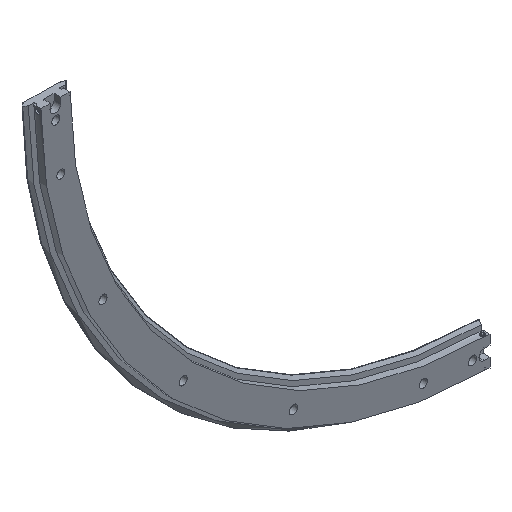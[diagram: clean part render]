
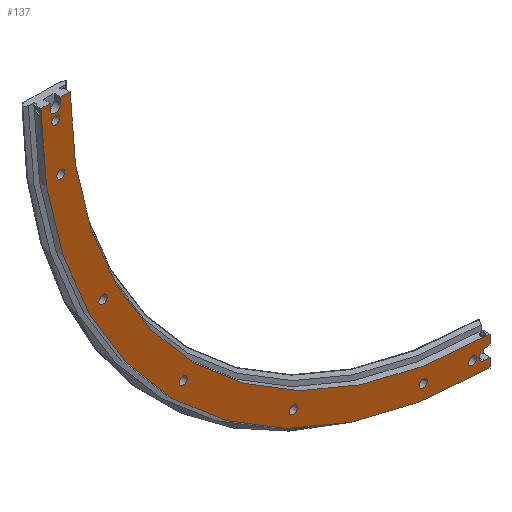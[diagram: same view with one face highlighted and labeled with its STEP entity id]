
A CAD part, isometric view. The second image highlights one B-rep face of the part: STEP entity #137.
In plain terms, the highlighted planar face has unit normal (0, -1, 0).
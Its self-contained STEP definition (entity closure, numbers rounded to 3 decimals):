
#137 = ADVANCED_FACE( '', ( #306, #307, #308, #309, #310, #311, #312, #313 ), #314, .T. );
#306 = FACE_BOUND( '', #519, .T. );
#307 = FACE_BOUND( '', #520, .T. );
#308 = FACE_BOUND( '', #521, .T. );
#309 = FACE_BOUND( '', #522, .T. );
#310 = FACE_BOUND( '', #523, .T. );
#311 = FACE_BOUND( '', #524, .T. );
#312 = FACE_BOUND( '', #525, .T. );
#313 = FACE_OUTER_BOUND( '', #526, .T. );
#314 = PLANE( '', #527 );
#519 = EDGE_LOOP( '', ( #1054 ) );
#520 = EDGE_LOOP( '', ( #1055 ) );
#521 = EDGE_LOOP( '', ( #1056 ) );
#522 = EDGE_LOOP( '', ( #1057 ) );
#523 = EDGE_LOOP( '', ( #1058 ) );
#524 = EDGE_LOOP( '', ( #1059 ) );
#525 = EDGE_LOOP( '', ( #1060 ) );
#526 = EDGE_LOOP( '', ( #1061, #1062, #1063, #1064, #1065, #1066, #1067, #1068, #1069, #1070, #1071, #1072 ) );
#527 = AXIS2_PLACEMENT_3D( '', #1073, #1074, #1075 );
#1054 = ORIENTED_EDGE( '', *, *, #1358, .F. );
#1055 = ORIENTED_EDGE( '', *, *, #1359, .F. );
#1056 = ORIENTED_EDGE( '', *, *, #1360, .F. );
#1057 = ORIENTED_EDGE( '', *, *, #1361, .F. );
#1058 = ORIENTED_EDGE( '', *, *, #1362, .F. );
#1059 = ORIENTED_EDGE( '', *, *, #1256, .F. );
#1060 = ORIENTED_EDGE( '', *, *, #1260, .F. );
#1061 = ORIENTED_EDGE( '', *, *, #1241, .T. );
#1062 = ORIENTED_EDGE( '', *, *, #1246, .T. );
#1063 = ORIENTED_EDGE( '', *, *, #1269, .T. );
#1064 = ORIENTED_EDGE( '', *, *, #1265, .T. );
#1065 = ORIENTED_EDGE( '', *, *, #1196, .T. );
#1066 = ORIENTED_EDGE( '', *, *, #1255, .T. );
#1067 = ORIENTED_EDGE( '', *, *, #1253, .T. );
#1068 = ORIENTED_EDGE( '', *, *, #1251, .T. );
#1069 = ORIENTED_EDGE( '', *, *, #1212, .T. );
#1070 = ORIENTED_EDGE( '', *, *, #1342, .F. );
#1071 = ORIENTED_EDGE( '', *, *, #1270, .T. );
#1072 = ORIENTED_EDGE( '', *, *, #1244, .T. );
#1073 = CARTESIAN_POINT( '', ( -725.25, 0., 0. ) );
#1074 = DIRECTION( '', ( 0., -1., 0. ) );
#1075 = DIRECTION( '', ( 0., 0., -1. ) );
#1196 = EDGE_CURVE( '', #1379, #1377, #1380, .T. );
#1212 = EDGE_CURVE( '', #1411, #1409, #1412, .T. );
#1241 = EDGE_CURVE( '', #1461, #1462, #1463, .T. );
#1244 = EDGE_CURVE( '', #1466, #1461, #1467, .T. );
#1246 = EDGE_CURVE( '', #1462, #1469, #1470, .T. );
#1251 = EDGE_CURVE( '', #1477, #1411, #1478, .T. );
#1253 = EDGE_CURVE( '', #1480, #1477, #1481, .T. );
#1255 = EDGE_CURVE( '', #1377, #1480, #1483, .T. );
#1256 = EDGE_CURVE( '', #1484, #1484, #1485, .T. );
#1260 = EDGE_CURVE( '', #1492, #1492, #1493, .T. );
#1265 = EDGE_CURVE( '', #1502, #1379, #1503, .T. );
#1269 = EDGE_CURVE( '', #1469, #1502, #1509, .T. );
#1270 = EDGE_CURVE( '', #1510, #1466, #1511, .T. );
#1342 = EDGE_CURVE( '', #1510, #1409, #1634, .T. );
#1358 = EDGE_CURVE( '', #1655, #1655, #1656, .T. );
#1359 = EDGE_CURVE( '', #1657, #1657, #1658, .T. );
#1360 = EDGE_CURVE( '', #1659, #1659, #1660, .T. );
#1361 = EDGE_CURVE( '', #1661, #1661, #1662, .T. );
#1362 = EDGE_CURVE( '', #1663, #1663, #1664, .T. );
#1377 = VERTEX_POINT( '', #1690 );
#1379 = VERTEX_POINT( '', #1693 );
#1380 = LINE( '', #1694, #1695 );
#1409 = VERTEX_POINT( '', #1762 );
#1411 = VERTEX_POINT( '', #1765 );
#1412 = LINE( '', #1766, #1767 );
#1461 = VERTEX_POINT( '', #1906 );
#1462 = VERTEX_POINT( '', #1907 );
#1463 = CIRCLE( '', #1908, 9. );
#1466 = VERTEX_POINT( '', #1913 );
#1467 = LINE( '', #1914, #1915 );
#1469 = VERTEX_POINT( '', #1918 );
#1470 = LINE( '', #1919, #1920 );
#1477 = VERTEX_POINT( '', #1930 );
#1478 = LINE( '', #1931, #1932 );
#1480 = VERTEX_POINT( '', #1935 );
#1481 = CIRCLE( '', #1936, 9. );
#1483 = LINE( '', #1939, #1940 );
#1484 = VERTEX_POINT( '', #1941 );
#1485 = CIRCLE( '', #1942, 7. );
#1492 = VERTEX_POINT( '', #1949 );
#1493 = CIRCLE( '', #1950, 7. );
#1502 = VERTEX_POINT( '', #2024 );
#1503 = CIRCLE( '', #2025, 775.75 );
#1509 = LINE( '', #2097, #2098 );
#1510 = VERTEX_POINT( '', #2099 );
#1511 = LINE( '', #2100, #2101 );
#1634 = CIRCLE( '', #2377, 725.25 );
#1655 = VERTEX_POINT( '', #2398 );
#1656 = CIRCLE( '', #2399, 7. );
#1657 = VERTEX_POINT( '', #2400 );
#1658 = CIRCLE( '', #2401, 7. );
#1659 = VERTEX_POINT( '', #2402 );
#1660 = CIRCLE( '', #2403, 7. );
#1661 = VERTEX_POINT( '', #2404 );
#1662 = CIRCLE( '', #2405, 7. );
#1663 = VERTEX_POINT( '', #2406 );
#1664 = CIRCLE( '', #2407, 7. );
#1690 = CARTESIAN_POINT( '', ( -2.5, 0., -759.5 ) );
#1693 = CARTESIAN_POINT( '', ( -2.5, 0., -775.746 ) );
#1694 = CARTESIAN_POINT( '', ( -2.5, 0., -788.87 ) );
#1695 = VECTOR( '', #2432, 1000. );
#1762 = CARTESIAN_POINT( '', ( -2.5, 0., -725.246 ) );
#1765 = CARTESIAN_POINT( '', ( -2.5, 0., -741.5 ) );
#1766 = CARTESIAN_POINT( '', ( -2.5, 0., -788.87 ) );
#1767 = VECTOR( '', #2442, 1000. );
#1906 = CARTESIAN_POINT( '', ( -741.5, 0., -12.5 ) );
#1907 = CARTESIAN_POINT( '', ( -759.5, 0., -12.5 ) );
#1908 = AXIS2_PLACEMENT_3D( '', #2477, #2478, #2479 );
#1913 = CARTESIAN_POINT( '', ( -741.5, 0., -2.5 ) );
#1914 = CARTESIAN_POINT( '', ( -741.5, 0., 0. ) );
#1915 = VECTOR( '', #2482, 1000. );
#1918 = CARTESIAN_POINT( '', ( -759.5, 0., -2.5 ) );
#1919 = CARTESIAN_POINT( '', ( -759.5, 0., -12.5 ) );
#1920 = VECTOR( '', #2484, 1000. );
#1930 = CARTESIAN_POINT( '', ( -12.5, 0., -741.5 ) );
#1931 = CARTESIAN_POINT( '', ( -12.5, 0., -741.5 ) );
#1932 = VECTOR( '', #2491, 1000. );
#1935 = CARTESIAN_POINT( '', ( -12.5, 0., -759.5 ) );
#1936 = AXIS2_PLACEMENT_3D( '', #2493, #2494, #2495 );
#1939 = CARTESIAN_POINT( '', ( 0., 0., -759.5 ) );
#1940 = VECTOR( '', #2497, 1000. );
#1941 = CARTESIAN_POINT( '', ( -741.26, 0., -124.404 ) );
#1942 = AXIS2_PLACEMENT_3D( '', #2498, #2499, #2500 );
#1949 = CARTESIAN_POINT( '', ( -117.404, 0., -748.26 ) );
#1950 = AXIS2_PLACEMENT_3D( '', #2510, #2511, #2512 );
#2024 = CARTESIAN_POINT( '', ( -775.746, 0., -2.5 ) );
#2025 = AXIS2_PLACEMENT_3D( '', #2522, #2523, #2524 );
#2097 = CARTESIAN_POINT( '', ( -2.5, 0., -2.5 ) );
#2098 = VECTOR( '', #2529, 1000. );
#2099 = CARTESIAN_POINT( '', ( -725.246, 0., -2.5 ) );
#2100 = CARTESIAN_POINT( '', ( -2.5, 0., -2.5 ) );
#2101 = VECTOR( '', #2530, 1000. );
#2377 = AXIS2_PLACEMENT_3D( '', #2604, #2605, #2606 );
#2398 = CARTESIAN_POINT( '', ( -749.796, 0., -39.501 ) );
#2399 = AXIS2_PLACEMENT_3D( '', #2652, #2653, #2654 );
#2400 = CARTESIAN_POINT( '', ( -32.501, 0., -756.796 ) );
#2401 = AXIS2_PLACEMENT_3D( '', #2655, #2656, #2657 );
#2402 = CARTESIAN_POINT( '', ( -668.7, 0., -347.72 ) );
#2403 = AXIS2_PLACEMENT_3D( '', #2658, #2659, #2660 );
#2404 = CARTESIAN_POINT( '', ( -530.684, 0., -537.684 ) );
#2405 = AXIS2_PLACEMENT_3D( '', #2661, #2662, #2663 );
#2406 = CARTESIAN_POINT( '', ( -340.72, 0., -675.7 ) );
#2407 = AXIS2_PLACEMENT_3D( '', #2664, #2665, #2666 );
#2432 = DIRECTION( '', ( 0., 0., 1. ) );
#2442 = DIRECTION( '', ( 0., 0., 1. ) );
#2477 = CARTESIAN_POINT( '', ( -750.5, 0., -12.5 ) );
#2478 = DIRECTION( '', ( 0., 1., 0. ) );
#2479 = DIRECTION( '', ( 1., 0., 0. ) );
#2482 = DIRECTION( '', ( 0., 0., -1. ) );
#2484 = DIRECTION( '', ( 0., 0., 1. ) );
#2491 = DIRECTION( '', ( 1., 0., 0. ) );
#2493 = CARTESIAN_POINT( '', ( -12.5, 0., -750.5 ) );
#2494 = DIRECTION( '', ( 0., 1., 0. ) );
#2495 = DIRECTION( '', ( 1., 0., 0. ) );
#2497 = DIRECTION( '', ( -1., 0., 0. ) );
#2498 = CARTESIAN_POINT( '', ( -741.26, 0., -117.404 ) );
#2499 = DIRECTION( '', ( 0., -1., 0. ) );
#2500 = DIRECTION( '', ( 0., 0., -1. ) );
#2510 = CARTESIAN_POINT( '', ( -117.404, 0., -741.26 ) );
#2511 = DIRECTION( '', ( 0., -1., 0. ) );
#2512 = DIRECTION( '', ( 0., 0., -1. ) );
#2522 = CARTESIAN_POINT( '', ( 0., 0., 0. ) );
#2523 = DIRECTION( '', ( 0., -1., 0. ) );
#2524 = DIRECTION( '', ( 0., 0., -1. ) );
#2529 = DIRECTION( '', ( -1., 0., 0. ) );
#2530 = DIRECTION( '', ( -1., 0., 0. ) );
#2604 = CARTESIAN_POINT( '', ( 0., 0., 0. ) );
#2605 = DIRECTION( '', ( 0., -1., 0. ) );
#2606 = DIRECTION( '', ( 0., 0., -1. ) );
#2652 = CARTESIAN_POINT( '', ( -749.796, 0., -32.501 ) );
#2653 = DIRECTION( '', ( 0., -1., 0. ) );
#2654 = DIRECTION( '', ( 0., 0., -1. ) );
#2655 = CARTESIAN_POINT( '', ( -32.501, 0., -749.796 ) );
#2656 = DIRECTION( '', ( 0., -1., 0. ) );
#2657 = DIRECTION( '', ( 0., 0., -1. ) );
#2658 = CARTESIAN_POINT( '', ( -668.7, 0., -340.72 ) );
#2659 = DIRECTION( '', ( 0., -1., 0. ) );
#2660 = DIRECTION( '', ( 0., 0., -1. ) );
#2661 = CARTESIAN_POINT( '', ( -530.684, 0., -530.684 ) );
#2662 = DIRECTION( '', ( 0., -1., 0. ) );
#2663 = DIRECTION( '', ( 0., 0., -1. ) );
#2664 = CARTESIAN_POINT( '', ( -340.72, 0., -668.7 ) );
#2665 = DIRECTION( '', ( 0., -1., 0. ) );
#2666 = DIRECTION( '', ( 0., 0., -1. ) );
